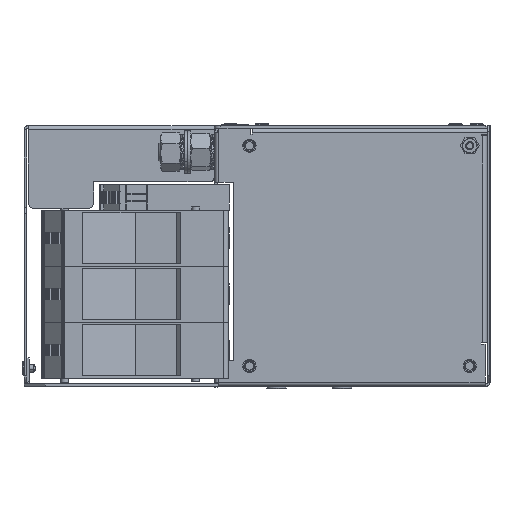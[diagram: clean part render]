
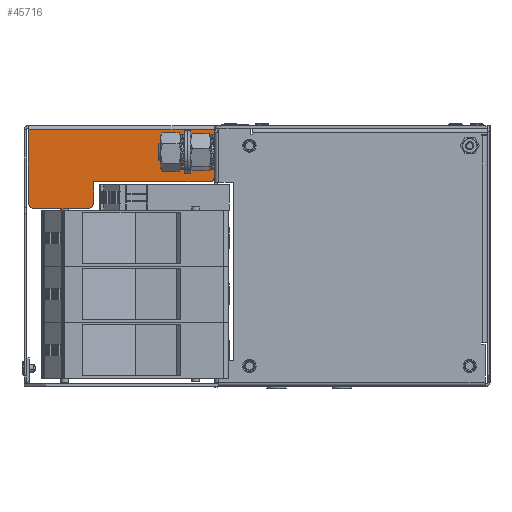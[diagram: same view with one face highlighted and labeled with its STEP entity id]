
A CAD part, left-side view. The second image highlights one B-rep face of the part: STEP entity #45716.
In plain terms, the highlighted planar face has unit normal (-1, 0, 0).
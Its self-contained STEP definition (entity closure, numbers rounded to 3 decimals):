
#38 = EDGE_CURVE ( 'NONE', #2424, #16012, #29199, .T. ) ;
#1251 = EDGE_CURVE ( 'NONE', #37974, #22752, #27621, .T. ) ;
#1518 = ORIENTED_EDGE ( 'NONE', *, *, #8725, .F. ) ;
#1993 = EDGE_CURVE ( 'NONE', #30803, #2396, #38762, .T. ) ;
#2396 = VERTEX_POINT ( 'NONE', #4539 ) ;
#2424 = VERTEX_POINT ( 'NONE', #8775 ) ;
#2590 = VECTOR ( 'NONE', #57303, 1000. ) ;
#3024 = CARTESIAN_POINT ( 'NONE',  ( -12.619, 222.1, -72.7 ) ) ;
#4539 = CARTESIAN_POINT ( 'NONE',  ( -12.619, 132.6, -96.5 ) ) ;
#4942 = EDGE_LOOP ( 'NONE', ( #27922, #14486, #40727, #19942, #27481, #28692, #1518, #17561, #57169 ) ) ;
#5764 = EDGE_CURVE ( 'NONE', #30803, #31285, #41268, .T. ) ;
#6707 = EDGE_CURVE ( 'NONE', #48648, #16012, #54060, .T. ) ;
#8725 = EDGE_CURVE ( 'NONE', #2424, #22752, #45876, .T. ) ;
#8775 = CARTESIAN_POINT ( 'NONE',  ( -12.619, 193.6, -111.5 ) ) ;
#8922 = CARTESIAN_POINT ( 'NONE',  ( -12.619, 132.6, -98.5 ) ) ;
#11930 = AXIS2_PLACEMENT_3D ( 'NONE', #15792, #20356, #52094 ) ;
#12975 = CARTESIAN_POINT ( 'NONE',  ( -12.619, 193.6, -108.5 ) ) ;
#14265 = DIRECTION ( 'NONE',  ( -1., 0., 0. ) ) ;
#14486 = ORIENTED_EDGE ( 'NONE', *, *, #50644, .T. ) ;
#15792 = CARTESIAN_POINT ( 'NONE',  ( -12.619, 190.6, -72.7 ) ) ;
#15890 = CARTESIAN_POINT ( 'NONE',  ( -12.619, 190.6, -73.5 ) ) ;
#16006 = DIRECTION ( 'NONE',  ( 0., 1., 0. ) ) ;
#16012 = VERTEX_POINT ( 'NONE', #57493 ) ;
#16361 = CARTESIAN_POINT ( 'NONE',  ( -12.619, 132.6, -98.5 ) ) ;
#17561 = ORIENTED_EDGE ( 'NONE', *, *, #38, .T. ) ;
#17832 = VECTOR ( 'NONE', #36183, 1000. ) ;
#18605 = EDGE_CURVE ( 'NONE', #50933, #48648, #38161, .T. ) ;
#18841 = CARTESIAN_POINT ( 'NONE',  ( -12.619, 219.1, -108.5 ) ) ;
#19942 = ORIENTED_EDGE ( 'NONE', *, *, #5764, .T. ) ;
#20356 = DIRECTION ( 'NONE',  ( -1., 0., 0. ) ) ;
#21732 = AXIS2_PLACEMENT_3D ( 'NONE', #25567, #57409, #30157 ) ;
#22752 = VERTEX_POINT ( 'NONE', #23871 ) ;
#22964 = CARTESIAN_POINT ( 'NONE',  ( -12.619, 134.6, -98.5 ) ) ;
#23871 = CARTESIAN_POINT ( 'NONE',  ( -12.619, 219.1, -111.5 ) ) ;
#24805 = AXIS2_PLACEMENT_3D ( 'NONE', #18841, #14265, #45944 ) ;
#25567 = CARTESIAN_POINT ( 'NONE',  ( -12.619, 134.6, -96.5 ) ) ;
#27481 = ORIENTED_EDGE ( 'NONE', *, *, #45214, .F. ) ;
#27621 = CIRCLE ( 'NONE', #24805, 3. ) ;
#27721 = FACE_OUTER_BOUND ( 'NONE', #4942, .T. ) ;
#27922 = ORIENTED_EDGE ( 'NONE', *, *, #18605, .F. ) ;
#28692 = ORIENTED_EDGE ( 'NONE', *, *, #1251, .T. ) ;
#29199 = CIRCLE ( 'NONE', #54842, 3. ) ;
#30157 = DIRECTION ( 'NONE',  ( 0., 0., 1. ) ) ;
#30803 = VERTEX_POINT ( 'NONE', #31869 ) ;
#31285 = VERTEX_POINT ( 'NONE', #44168 ) ;
#31869 = CARTESIAN_POINT ( 'NONE',  ( -12.619, 132.6, -73.5 ) ) ;
#32046 = VECTOR ( 'NONE', #34799, 1000. ) ;
#32456 = VECTOR ( 'NONE', #49241, 1000. ) ;
#33905 = CARTESIAN_POINT ( 'NONE',  ( -12.619, 222.1, -108.5 ) ) ;
#34799 = DIRECTION ( 'NONE',  ( 0., 0., 1. ) ) ;
#35531 = DIRECTION ( 'NONE',  ( -1., 0., 0. ) ) ;
#36074 = DIRECTION ( 'NONE',  ( 0., 1., 0. ) ) ;
#36183 = DIRECTION ( 'NONE',  ( 0., 0., -1. ) ) ;
#36264 = CARTESIAN_POINT ( 'NONE',  ( -12.619, 190.6, -98.5 ) ) ;
#37974 = VERTEX_POINT ( 'NONE', #33905 ) ;
#38161 = LINE ( 'NONE', #8922, #50336 ) ;
#38762 = LINE ( 'NONE', #16361, #2590 ) ;
#40009 = CARTESIAN_POINT ( 'NONE',  ( -12.619, 190.6, -111.5 ) ) ;
#40727 = ORIENTED_EDGE ( 'NONE', *, *, #1993, .F. ) ;
#41268 = LINE ( 'NONE', #15890, #42688 ) ;
#42584 = LINE ( 'NONE', #3024, #32046 ) ;
#42688 = VECTOR ( 'NONE', #16006, 1000. ) ;
#42832 = PLANE ( 'NONE',  #11930 ) ;
#44168 = CARTESIAN_POINT ( 'NONE',  ( -12.619, 222.1, -73.5 ) ) ;
#45214 = EDGE_CURVE ( 'NONE', #37974, #31285, #42584, .T. ) ;
#45716 = ADVANCED_FACE ( 'NONE', ( #27721 ), #42832, .T. ) ;
#45876 = LINE ( 'NONE', #40009, #32456 ) ;
#45944 = DIRECTION ( 'NONE',  ( 0., 0., 1. ) ) ;
#48648 = VERTEX_POINT ( 'NONE', #48742 ) ;
#48742 = CARTESIAN_POINT ( 'NONE',  ( -12.619, 190.6, -98.5 ) ) ;
#49241 = DIRECTION ( 'NONE',  ( 0., 1., 0. ) ) ;
#50336 = VECTOR ( 'NONE', #36074, 1000. ) ;
#50644 = EDGE_CURVE ( 'NONE', #50933, #2396, #51720, .T. ) ;
#50933 = VERTEX_POINT ( 'NONE', #22964 ) ;
#51720 = CIRCLE ( 'NONE', #21732, 2. ) ;
#52094 = DIRECTION ( 'NONE',  ( 0., 0., 1. ) ) ;
#53893 = DIRECTION ( 'NONE',  ( 0., 0., 1. ) ) ;
#54060 = LINE ( 'NONE', #36264, #17832 ) ;
#54842 = AXIS2_PLACEMENT_3D ( 'NONE', #12975, #35531, #53893 ) ;
#57169 = ORIENTED_EDGE ( 'NONE', *, *, #6707, .F. ) ;
#57303 = DIRECTION ( 'NONE',  ( 0., 0., -1. ) ) ;
#57409 = DIRECTION ( 'NONE',  ( -1., 0., 0. ) ) ;
#57493 = CARTESIAN_POINT ( 'NONE',  ( -12.619, 190.6, -108.5 ) ) ;
